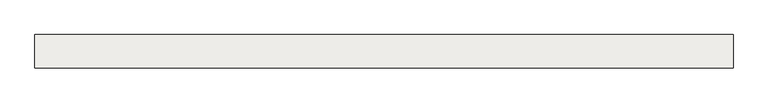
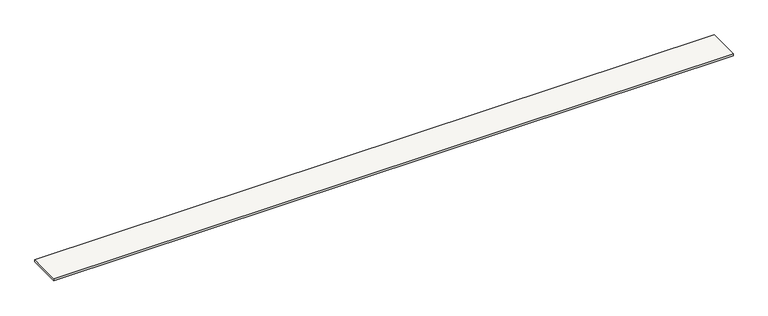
"""IFC4 building model written with IfcOpenShell, lengths in millimetres: slab geometry, Sol-02 - Tablette bois 2cm."""

from ifc_helpers import new_model, si_unit, origin, origin_with_axes, place, context, project, spatial, polyline, outline, extrude, source, transform, mapped, element, save


def slab_44daa7cd(model_context):
    return source(origin(), model_context, "Body", "SweptSolid", [
        extrude(outline(polyline([(38407.4999738, 9.0), (32138.0, 9.0), (32138.0, 309.0), (38407.4999738, 309.0), (38407.4999738, 9.0)])), origin_with_axes(), (0.0, 0.0, 1.0), 20.0),
    ])


if __name__ == "__main__":
    model = new_model("IFC4")
    model_context = context("Model", 3, world=origin())
    ifc_project = project(units=[si_unit("LENGTHUNIT", "METRE", prefix="MILLI")], contexts=[model_context])
    site = spatial("IfcSite", under=ifc_project)
    building = spatial("IfcBuilding", under=site)
    placement = place(None, origin())
    slab_shape = slab_44daa7cd(model_context)
    element("IfcSlab", 1, ObjectType="Sol-02 - Tablette bois 2cm", at=placement, inside=building, context=model_context, shape_type="MappedRepresentation", body=[
        mapped(slab_shape, transform((0.0, 0.0, 0.0), x_axis=(1.0, 0.0, 0.0), y_axis=(0.0, 1.0, 0.0), z_axis=(0.0, 0.0, 1.0))),
    ])
    save(model, "model.ifc")
